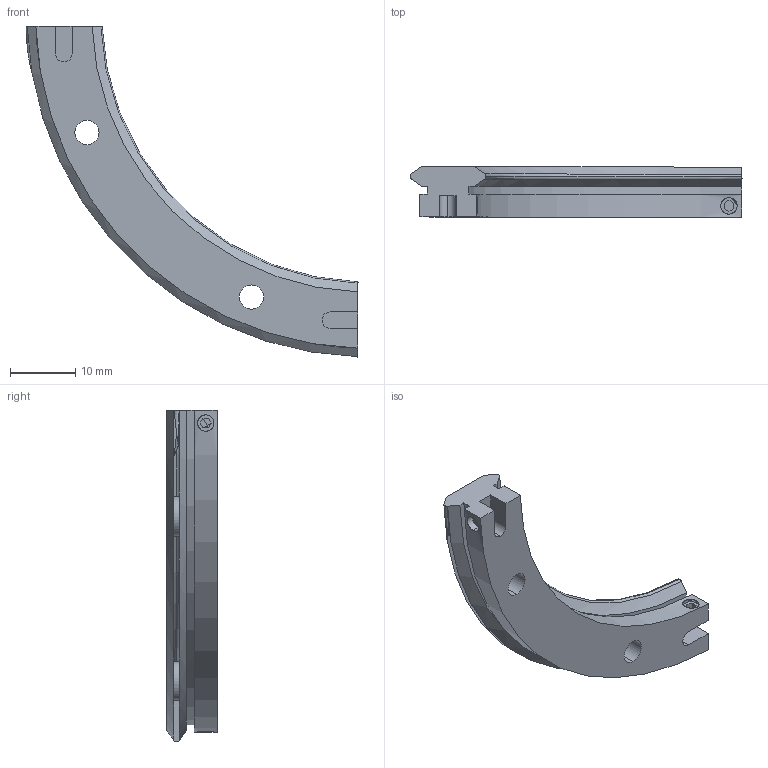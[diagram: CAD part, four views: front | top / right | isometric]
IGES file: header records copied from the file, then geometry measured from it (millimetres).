
Start section: 3D InterOp IGES (v. 2019 1.0.2), Spatial Corp. Copyright (c) 1999-2017.
Global section: file name: TR12 93 R90.igs; native system: Spatial Corp.; preprocessor: 3D InterOp GENERIC/IGES 3.0; author: Noname; organization: Noname; date: 20220628.092357; units: millimetre
Bounding box: 50.79 x 7.7 x 50.79 mm (x, y, z)
Surface area: 3197 mm2 (no closed solid volume)
Topology: 0 solids, 0 shells, 78 faces, 396 edges, 396 vertices
Faces by surface type: extrusion 48, revolution 30
